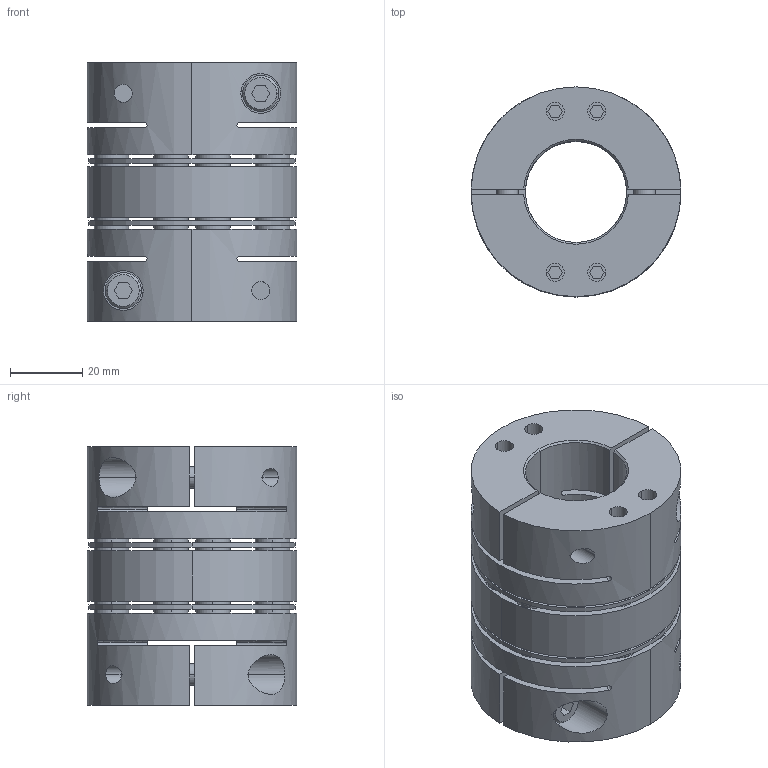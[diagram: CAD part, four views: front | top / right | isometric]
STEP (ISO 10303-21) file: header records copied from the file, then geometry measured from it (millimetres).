
FILE_DESCRIPTION((''),'2;1');
FILE_NAME('TAD-58C-28×28.stp','2022-11-13T22:10:24',(''),(''),'AutoCAD STEP 2000i','AutoCAD 2000i',', , ');
FILE_SCHEMA(('CONFIG_CONTROL_DESIGN'));
Length unit declared in the file: millimetre
Products named in the file (8): TAD-58C-22×22; 忣兜1; TA58C-22-2; CAP-M6×20; TA58C-22; TA58C-12-2; TA58C-12; TAS-58C-ITA
Assembly tree (10 placements, depth 3):
  TAD-58C-22×22
    忣兜1
    TA58C-22-2
      CAP-M6×20
    TA58C-22
      CAP-M6×20
    TA58C-12-2
      CAP-M6×20
    TA58C-12
      CAP-M6×20
    TAS-58C-ITA
Bounding box: 58 x 58 x 71.5 mm (x, y, z)
Volume: 120295.3 mm3; surface area: 53814.9 mm2
Topology: 1 solids, 5 shells, 568 faces, 1370 edges, 954 vertices
Faces by surface type: plane 252, cylinder 228, cone 72, bspline 16
Entity records: 18721 total; most frequent: CARTESIAN_POINT 4821, DIRECTION 3022, ORIENTED_EDGE 2640, EDGE_CURVE 1320, AXIS2_PLACEMENT_3D 1145, VERTEX_POINT 860, VECTOR 732, LINE 732
